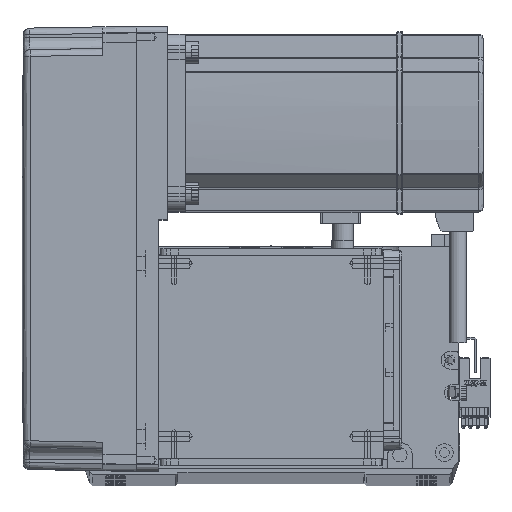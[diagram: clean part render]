
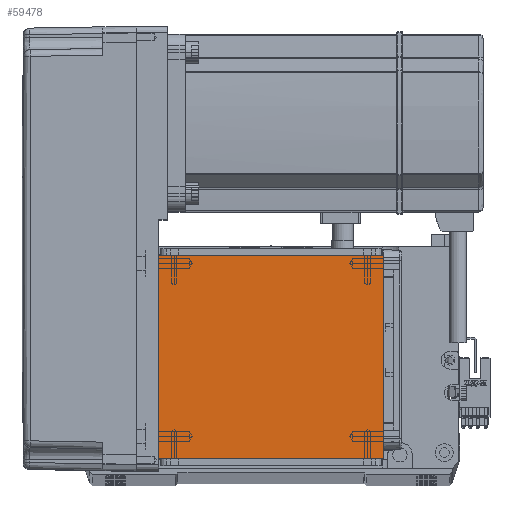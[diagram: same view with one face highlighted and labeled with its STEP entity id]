
A CAD part, top view. The second image highlights one B-rep face of the part: STEP entity #59478.
In plain terms, the highlighted planar face has unit normal (0, 0, 1).
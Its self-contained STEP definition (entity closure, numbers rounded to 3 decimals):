
#2108 = LINE ( 'NONE', #11113, #55577 ) ;
#2269 = PLANE ( 'NONE',  #41469 ) ;
#2764 = VERTEX_POINT ( 'NONE', #3822 ) ;
#3822 = CARTESIAN_POINT ( 'NONE',  ( -50.5, 111.5, 115. ) ) ;
#5739 = ORIENTED_EDGE ( 'NONE', *, *, #38899, .T. ) ;
#5855 = VERTEX_POINT ( 'NONE', #25114 ) ;
#6721 = DIRECTION ( 'NONE',  ( 1., 0., 0. ) ) ;
#7151 = CARTESIAN_POINT ( 'NONE',  ( -70.004, 111.5, 115. ) ) ;
#7152 = EDGE_LOOP ( 'NONE', ( #34862, #17664, #15136, #5739 ) ) ;
#11113 = CARTESIAN_POINT ( 'NONE',  ( -50.5, 122., 115. ) ) ;
#13847 = VERTEX_POINT ( 'NONE', #35159 ) ;
#15136 = ORIENTED_EDGE ( 'NONE', *, *, #58337, .F. ) ;
#15324 = DIRECTION ( 'NONE',  ( 0., -1., 0. ) ) ;
#17664 = ORIENTED_EDGE ( 'NONE', *, *, #49795, .T. ) ;
#21260 = VECTOR ( 'NONE', #6721, 1000. ) ;
#24307 = FACE_OUTER_BOUND ( 'NONE', #7152, .T. ) ;
#25114 = CARTESIAN_POINT ( 'NONE',  ( 50.5, 111.5, 115. ) ) ;
#26611 = CARTESIAN_POINT ( 'NONE',  ( 50.5, 20., 115. ) ) ;
#27114 = CARTESIAN_POINT ( 'NONE',  ( 0., 0., 115. ) ) ;
#27544 = DIRECTION ( 'NONE',  ( 0., 1., 0. ) ) ;
#28980 = VECTOR ( 'NONE', #27544, 1000. ) ;
#34217 = EDGE_CURVE ( 'NONE', #2764, #5855, #61287, .T. ) ;
#34862 = ORIENTED_EDGE ( 'NONE', *, *, #34217, .F. ) ;
#35159 = CARTESIAN_POINT ( 'NONE',  ( -50.5, 20., 115. ) ) ;
#36684 = VERTEX_POINT ( 'NONE', #26611 ) ;
#37214 = DIRECTION ( 'NONE',  ( 1., 0., 0. ) ) ;
#38559 = LINE ( 'NONE', #65125, #50362 ) ;
#38899 = EDGE_CURVE ( 'NONE', #36684, #5855, #39151, .T. ) ;
#39151 = LINE ( 'NONE', #42920, #28980 ) ;
#41469 = AXIS2_PLACEMENT_3D ( 'NONE', #27114, #42041, #37214 ) ;
#42041 = DIRECTION ( 'NONE',  ( 0., 0., 1. ) ) ;
#42920 = CARTESIAN_POINT ( 'NONE',  ( 50.5, 122., 115. ) ) ;
#49795 = EDGE_CURVE ( 'NONE', #2764, #13847, #2108, .T. ) ;
#50362 = VECTOR ( 'NONE', #60078, 1000. ) ;
#55577 = VECTOR ( 'NONE', #15324, 1000. ) ;
#58337 = EDGE_CURVE ( 'NONE', #36684, #13847, #38559, .T. ) ;
#59478 = ADVANCED_FACE ( 'NONE', ( #24307 ), #2269, .T. ) ;
#60078 = DIRECTION ( 'NONE',  ( -1., 0., 0. ) ) ;
#61287 = LINE ( 'NONE', #7151, #21260 ) ;
#65125 = CARTESIAN_POINT ( 'NONE',  ( -70.004, 20., 115. ) ) ;
